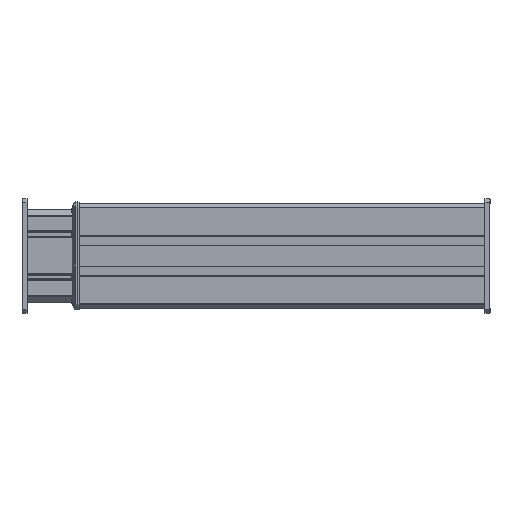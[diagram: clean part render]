
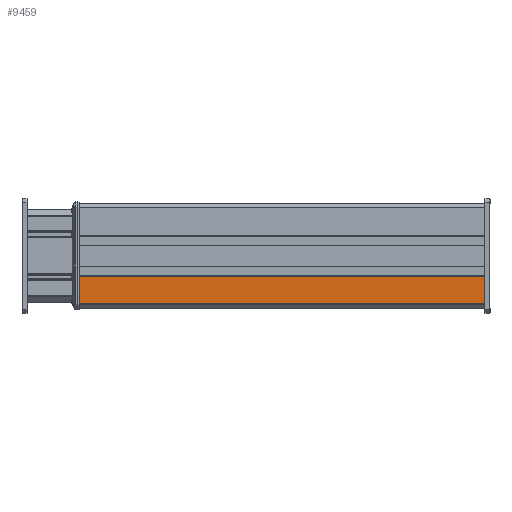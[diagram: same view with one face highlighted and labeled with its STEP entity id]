
A CAD part, left-side view. The second image highlights one B-rep face of the part: STEP entity #9459.
In plain terms, the highlighted planar face has unit normal (-1, 0, 0).
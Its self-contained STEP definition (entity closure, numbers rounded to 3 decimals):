
#1973=DIRECTION('',(0.,0.,1.));
#1974=VECTOR('',#1973,38.879);
#1975=CARTESIAN_POINT('',(-97.,50.,-67.086));
#1976=LINE('',#1975,#1974);
#3934=DIRECTION('',(0.,-1.,0.));
#3935=VECTOR('',#3934,570.);
#3936=CARTESIAN_POINT('',(-97.,620.,-67.086));
#3937=LINE('',#3936,#3935);
#3938=DIRECTION('',(0.,0.,1.));
#3939=VECTOR('',#3938,38.879);
#3940=CARTESIAN_POINT('',(-97.,620.,-67.086));
#3941=LINE('',#3940,#3939);
#3942=DIRECTION('',(0.,1.,0.));
#3943=VECTOR('',#3942,570.);
#3944=CARTESIAN_POINT('',(-97.,50.,-28.207));
#3945=LINE('',#3944,#3943);
#5404=CARTESIAN_POINT('',(-97.,620.,-28.207));
#5405=VERTEX_POINT('',#5404);
#5406=CARTESIAN_POINT('',(-97.,620.,-67.086));
#5407=VERTEX_POINT('',#5406);
#6236=CARTESIAN_POINT('',(-97.,50.,-67.086));
#6237=VERTEX_POINT('',#6236);
#6238=CARTESIAN_POINT('',(-97.,50.,-28.207));
#6239=VERTEX_POINT('',#6238);
#9447=CARTESIAN_POINT('',(-97.,0.,-28.));
#9448=DIRECTION('',(1.,0.,0.));
#9449=DIRECTION('',(0.,0.,-1.));
#9450=AXIS2_PLACEMENT_3D('',#9447,#9448,#9449);
#9451=PLANE('',#9450);
#9452=ORIENTED_EDGE('',*,*,#7891,.F.);
#9453=ORIENTED_EDGE('',*,*,#9442,.F.);
#9454=ORIENTED_EDGE('',*,*,#7036,.T.);
#9456=ORIENTED_EDGE('',*,*,#9455,.F.);
#9457=EDGE_LOOP('',(#9452,#9453,#9454,#9456));
#9458=FACE_OUTER_BOUND('',#9457,.F.);
#7036=EDGE_CURVE('',#5407,#5405,#3941,.T.);
#7891=EDGE_CURVE('',#6237,#6239,#1976,.T.);
#9442=EDGE_CURVE('',#5407,#6237,#3937,.T.);
#9455=EDGE_CURVE('',#6239,#5405,#3945,.T.);
#9459=ADVANCED_FACE('',(#9458),#9451,.F.);
